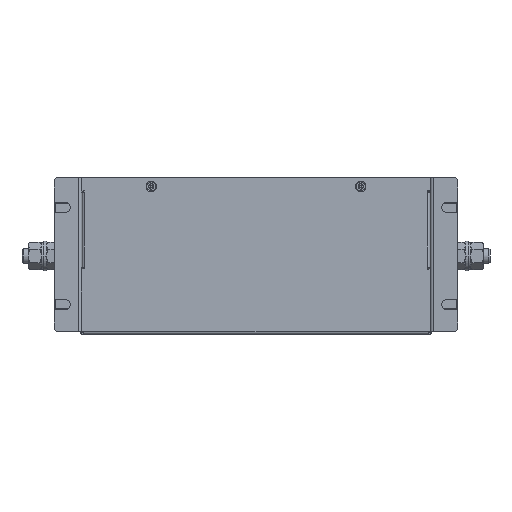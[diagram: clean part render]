
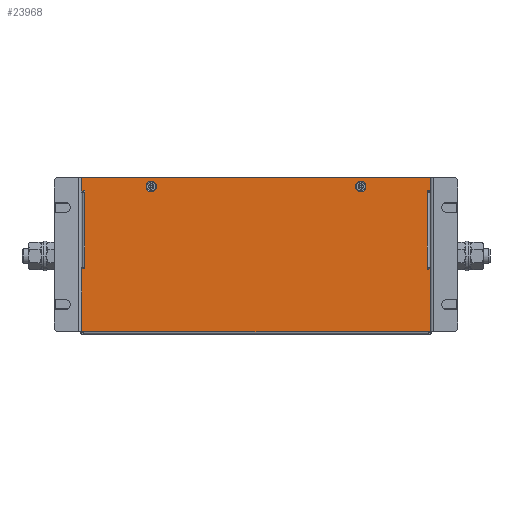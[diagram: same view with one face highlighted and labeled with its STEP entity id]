
A CAD part, front view. The second image highlights one B-rep face of the part: STEP entity #23968.
In plain terms, the highlighted planar face has unit normal (0, -1, 0).
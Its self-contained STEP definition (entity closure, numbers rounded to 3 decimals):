
#2035=DIRECTION('',(0.,0.,-1.));
#2036=VECTOR('',#2035,50.);
#2037=CARTESIAN_POINT('',(-114.5,0.,95.));
#2038=LINE('',#2037,#2036);
#2039=DIRECTION('',(-1.,0.,0.));
#2040=VECTOR('',#2039,2.);
#2041=CARTESIAN_POINT('',(-114.5,0.,96.));
#2042=LINE('',#2041,#2040);
#2043=DIRECTION('',(1.,0.,0.));
#2044=VECTOR('',#2043,233.);
#2045=CARTESIAN_POINT('',(-116.5,0.,105.));
#2046=LINE('',#2045,#2044);
#2047=DIRECTION('',(-1.,0.,0.));
#2048=VECTOR('',#2047,2.);
#2049=CARTESIAN_POINT('',(116.5,0.,96.5));
#2050=LINE('',#2049,#2048);
#2051=DIRECTION('',(0.,0.,-1.));
#2052=VECTOR('',#2051,1.5);
#2053=CARTESIAN_POINT('',(114.5,0.,96.5));
#2054=LINE('',#2053,#2052);
#2055=DIRECTION('',(1.,0.,0.));
#2056=VECTOR('',#2055,2.);
#2057=CARTESIAN_POINT('',(114.5,0.,43.5));
#2058=LINE('',#2057,#2056);
#2059=DIRECTION('',(1.,0.,0.));
#2060=VECTOR('',#2059,2.);
#2061=CARTESIAN_POINT('',(-116.5,0.,44.));
#2062=LINE('',#2061,#2060);
#2063=DIRECTION('',(0.,0.,1.));
#2064=VECTOR('',#2063,1.);
#2065=CARTESIAN_POINT('',(-114.5,0.,44.));
#2066=LINE('',#2065,#2064);
#2067=CARTESIAN_POINT('',(-70.,0.,99.));
#2068=DIRECTION('',(0.,-1.,0.));
#2069=DIRECTION('',(-1.,0.,0.));
#2070=AXIS2_PLACEMENT_3D('',#2067,#2068,#2069);
#2072=CARTESIAN_POINT('',(-70.,0.,99.));
#2073=DIRECTION('',(0.,-1.,0.));
#2074=DIRECTION('',(1.,0.,0.));
#2075=AXIS2_PLACEMENT_3D('',#2072,#2073,#2074);
#2077=CARTESIAN_POINT('',(70.,0.,99.));
#2078=DIRECTION('',(0.,-1.,0.));
#2079=DIRECTION('',(-1.,0.,0.));
#2080=AXIS2_PLACEMENT_3D('',#2077,#2078,#2079);
#2082=CARTESIAN_POINT('',(70.,0.,99.));
#2083=DIRECTION('',(0.,-1.,0.));
#2084=DIRECTION('',(1.,0.,0.));
#2085=AXIS2_PLACEMENT_3D('',#2082,#2083,#2084);
#2159=DIRECTION('',(0.,0.,-1.));
#2160=VECTOR('',#2159,9.);
#2161=CARTESIAN_POINT('',(-116.5,0.,105.));
#2162=LINE('',#2161,#2160);
#2167=DIRECTION('',(0.,0.,1.));
#2168=VECTOR('',#2167,8.5);
#2169=CARTESIAN_POINT('',(116.5,0.,96.5));
#2170=LINE('',#2169,#2168);
#2311=DIRECTION('',(0.,0.,1.));
#2312=VECTOR('',#2311,50.);
#2313=CARTESIAN_POINT('',(114.5,0.,45.));
#2314=LINE('',#2313,#2312);
#9078=DIRECTION('',(0.,0.,-1.));
#9079=VECTOR('',#9078,1.);
#9080=CARTESIAN_POINT('',(-114.5,0.,96.));
#9081=LINE('',#9080,#9079);
#12942=DIRECTION('',(1.,0.,0.));
#12943=VECTOR('',#12942,233.);
#12944=CARTESIAN_POINT('',(-116.5,0.,
2.));
#12945=LINE('',#12944,#12943);
#13015=DIRECTION('',(0.,0.,1.));
#13016=VECTOR('',#13015,41.5);
#13017=CARTESIAN_POINT('',(116.5,0.,2.));
#13018=LINE('',#13017,#13016);
#13023=DIRECTION('',(0.,0.,1.));
#13024=VECTOR('',#13023,1.5);
#13025=CARTESIAN_POINT('',(114.5,0.,43.5));
#13026=LINE('',#13025,#13024);
#13039=DIRECTION('',(0.,0.,-1.));
#13040=VECTOR('',#13039,42.);
#13041=CARTESIAN_POINT('',(-116.5,0.,44.));
#13042=LINE('',#13041,#13040);
#17623=CARTESIAN_POINT('',(-114.5,0.,45.));
#17624=VERTEX_POINT('',#17623);
#17631=CARTESIAN_POINT('',(-114.5,0.,95.));
#17632=VERTEX_POINT('',#17631);
#17633=CARTESIAN_POINT('',(-114.5,0.,96.));
#17634=CARTESIAN_POINT('',(-116.5,0.,96.));
#17635=VERTEX_POINT('',#17633);
#17636=VERTEX_POINT('',#17634);
#17637=CARTESIAN_POINT('',(-116.5,0.,105.));
#17638=VERTEX_POINT('',#17637);
#17639=CARTESIAN_POINT('',(116.5,0.,105.));
#17640=VERTEX_POINT('',#17639);
#17641=CARTESIAN_POINT('',(116.5,0.,96.5));
#17642=VERTEX_POINT('',#17641);
#17643=CARTESIAN_POINT('',(114.5,0.,96.5));
#17644=VERTEX_POINT('',#17643);
#17645=CARTESIAN_POINT('',(114.5,0.,95.));
#17646=VERTEX_POINT('',#17645);
#17647=CARTESIAN_POINT('',(114.5,0.,45.));
#17648=VERTEX_POINT('',#17647);
#17649=CARTESIAN_POINT('',(114.5,0.,43.5));
#17650=VERTEX_POINT('',#17649);
#17651=CARTESIAN_POINT('',(116.5,0.,43.5));
#17652=VERTEX_POINT('',#17651);
#17653=CARTESIAN_POINT('',(116.5,0.,2.));
#17654=VERTEX_POINT('',#17653);
#17655=CARTESIAN_POINT('',(-116.5,0.,
2.));
#17656=VERTEX_POINT('',#17655);
#17657=CARTESIAN_POINT('',(-116.5,0.,44.));
#17658=VERTEX_POINT('',#17657);
#17659=CARTESIAN_POINT('',(-114.5,0.,44.));
#17660=VERTEX_POINT('',#17659);
#17661=CARTESIAN_POINT('',(-73.5,0.,99.));
#17662=CARTESIAN_POINT('',(-66.5,0.,99.));
#17663=VERTEX_POINT('',#17661);
#17664=VERTEX_POINT('',#17662);
#17665=CARTESIAN_POINT('',(66.5,0.,99.));
#17666=CARTESIAN_POINT('',(73.5,0.,99.));
#17667=VERTEX_POINT('',#17665);
#17668=VERTEX_POINT('',#17666);
#23918=CARTESIAN_POINT('',(-60.614,0.,0.));
#23919=DIRECTION('',(0.,-1.,0.));
#23920=DIRECTION('',(1.,0.,0.));
#23921=AXIS2_PLACEMENT_3D('',#23918,#23919,#23920);
#23922=PLANE('',#23921);
#23924=ORIENTED_EDGE('',*,*,#23923,.T.);
#23926=ORIENTED_EDGE('',*,*,#23925,.F.);
#23928=ORIENTED_EDGE('',*,*,#23927,.T.);
#23930=ORIENTED_EDGE('',*,*,#23929,.F.);
#23932=ORIENTED_EDGE('',*,*,#23931,.T.);
#23934=ORIENTED_EDGE('',*,*,#23933,.T.);
#23936=ORIENTED_EDGE('',*,*,#23935,.F.);
#23938=ORIENTED_EDGE('',*,*,#23937,.F.);
#23940=ORIENTED_EDGE('',*,*,#23939,.T.);
#23942=ORIENTED_EDGE('',*,*,#23941,.F.);
#23944=ORIENTED_EDGE('',*,*,#23943,.F.);
#23946=ORIENTED_EDGE('',*,*,#23945,.F.);
#23948=ORIENTED_EDGE('',*,*,#23947,.T.);
#23950=ORIENTED_EDGE('',*,*,#23949,.T.);
#23951=ORIENTED_EDGE('',*,*,#23902,.F.);
#23953=ORIENTED_EDGE('',*,*,#23952,.F.);
#23954=EDGE_LOOP('',(#23924,#23926,#23928,#23930,#23932,#23934,#23936,#23938,
#23940,#23942,#23944,#23946,#23948,#23950,#23951,#23953));
#23955=FACE_OUTER_BOUND('',#23954,.F.);
#23957=ORIENTED_EDGE('',*,*,#23956,.T.);
#23959=ORIENTED_EDGE('',*,*,#23958,.T.);
#23960=EDGE_LOOP('',(#23957,#23959));
#23961=FACE_BOUND('',#23960,.F.);
#23963=ORIENTED_EDGE('',*,*,#23962,.T.);
#23965=ORIENTED_EDGE('',*,*,#23964,.T.);
#23966=EDGE_LOOP('',(#23963,#23965));
#23967=FACE_BOUND('',#23966,.F.);
#2071=CIRCLE('',#2070,3.5);
#2076=CIRCLE('',#2075,3.5);
#2081=CIRCLE('',#2080,3.5);
#2086=CIRCLE('',#2085,3.5);
#23902=EDGE_CURVE('',#17632,#17624,#2038,.T.);
#23923=EDGE_CURVE('',#17635,#17636,#2042,.T.);
#23925=EDGE_CURVE('',#17638,#17636,#2162,.T.);
#23927=EDGE_CURVE('',#17638,#17640,#2046,.T.);
#23929=EDGE_CURVE('',#17642,#17640,#2170,.T.);
#23931=EDGE_CURVE('',#17642,#17644,#2050,.T.);
#23933=EDGE_CURVE('',#17644,#17646,#2054,.T.);
#23935=EDGE_CURVE('',#17648,#17646,#2314,.T.);
#23937=EDGE_CURVE('',#17650,#17648,#13026,.T.);
#23939=EDGE_CURVE('',#17650,#17652,#2058,.T.);
#23941=EDGE_CURVE('',#17654,#17652,#13018,.T.);
#23943=EDGE_CURVE('',#17656,#17654,#12945,.T.);
#23945=EDGE_CURVE('',#17658,#17656,#13042,.T.);
#23947=EDGE_CURVE('',#17658,#17660,#2062,.T.);
#23949=EDGE_CURVE('',#17660,#17624,#2066,.T.);
#23952=EDGE_CURVE('',#17635,#17632,#9081,.T.);
#23956=EDGE_CURVE('',#17663,#17664,#2071,.T.);
#23958=EDGE_CURVE('',#17664,#17663,#2076,.T.);
#23962=EDGE_CURVE('',#17667,#17668,#2081,.T.);
#23964=EDGE_CURVE('',#17668,#17667,#2086,.T.);
#23968=ADVANCED_FACE('',(#23955,#23961,#23967),#23922,.T.);
